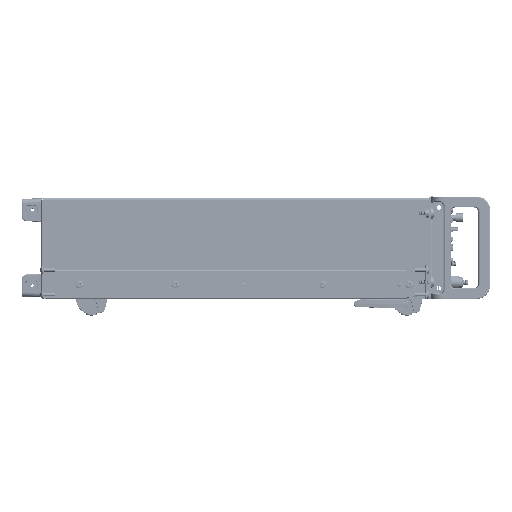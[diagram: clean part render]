
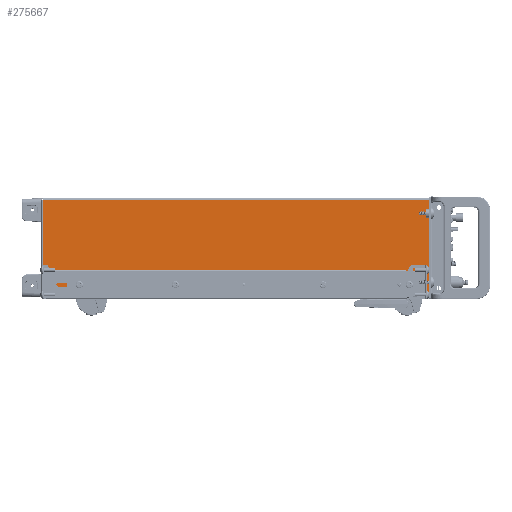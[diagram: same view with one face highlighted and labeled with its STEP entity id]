
A CAD part, left-side view. The second image highlights one B-rep face of the part: STEP entity #275667.
In plain terms, the highlighted planar face has unit normal (-1, 0, 0).
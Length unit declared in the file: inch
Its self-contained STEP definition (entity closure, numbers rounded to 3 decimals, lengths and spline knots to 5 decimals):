
#261806=DIRECTION('',(0.,0.,-1.));
#261807=VECTOR('',#261806,19.83);
#261808=CARTESIAN_POINT('',(-8.4,-2.42,17.35));
#261809=LINE('',#261808,#261807);
#262527=CARTESIAN_POINT('',(-8.4,-1.865,15.632));
#262528=DIRECTION('',(1.,0.,0.));
#262529=DIRECTION('',(0.,0.,1.));
#262530=AXIS2_PLACEMENT_3D('',#262527,#262528,#262529);
#262535=CARTESIAN_POINT('',(-8.4,-1.865,15.632));
#262536=DIRECTION('',(1.,0.,0.));
#262537=DIRECTION('',(0.,0.,-1.));
#262538=AXIS2_PLACEMENT_3D('',#262535,#262536,#262537);
#262543=CARTESIAN_POINT('',(-8.4,-1.865,7.632));
#262544=DIRECTION('',(1.,0.,0.));
#262545=DIRECTION('',(0.,0.,1.));
#262546=AXIS2_PLACEMENT_3D('',#262543,#262544,#262545);
#262551=CARTESIAN_POINT('',(-8.4,-1.865,7.632));
#262552=DIRECTION('',(1.,0.,0.));
#262553=DIRECTION('',(0.,0.,-1.));
#262554=AXIS2_PLACEMENT_3D('',#262551,#262552,#262553);
#262559=CARTESIAN_POINT('',(-8.4,-1.865,-0.368));
#262560=DIRECTION('',(1.,0.,0.));
#262561=DIRECTION('',(0.,0.,1.));
#262562=AXIS2_PLACEMENT_3D('',#262559,#262560,#262561);
#262567=CARTESIAN_POINT('',(-8.4,-1.865,-0.368));
#262568=DIRECTION('',(1.,0.,0.));
#262569=DIRECTION('',(0.,0.,-1.));
#262570=AXIS2_PLACEMENT_3D('',#262567,#262568,#262569);
#262575=CARTESIAN_POINT('',(-8.4,2.382,17.288));
#262576=DIRECTION('',(-1.,0.,0.));
#262577=DIRECTION('',(0.,-1.,0.));
#262578=AXIS2_PLACEMENT_3D('',#262575,#262576,#262577);
#262583=DIRECTION('',(0.,0.,-1.));
#262584=VECTOR('',#262583,0.051);
#262585=CARTESIAN_POINT('',(-8.4,2.32,17.288));
#262586=LINE('',#262585,#262584);
#262590=DIRECTION('',(0.,-1.,0.));
#262591=VECTOR('',#262590,0.416);
#262592=CARTESIAN_POINT('',(-8.4,2.258,17.175));
#262593=LINE('',#262592,#262591);
#262597=DIRECTION('',(0.,0.,-1.));
#262598=VECTOR('',#262597,0.051);
#262599=CARTESIAN_POINT('',(-8.4,1.78,17.288));
#262600=LINE('',#262599,#262598);
#262604=CARTESIAN_POINT('',(-8.4,1.718,17.288));
#262605=DIRECTION('',(-1.,0.,0.));
#262606=DIRECTION('',(0.,0.,1.));
#262607=AXIS2_PLACEMENT_3D('',#262604,#262605,#262606);
#262612=CARTESIAN_POINT('',(-8.4,-1.718,17.288));
#262613=DIRECTION('',(-1.,0.,0.));
#262614=DIRECTION('',(0.,-1.,0.));
#262615=AXIS2_PLACEMENT_3D('',#262612,#262613,#262614);
#262620=DIRECTION('',(0.,0.,-1.));
#262621=VECTOR('',#262620,0.051);
#262622=CARTESIAN_POINT('',(-8.4,-1.78,17.288));
#262623=LINE('',#262622,#262621);
#262627=DIRECTION('',(0.,-1.,0.));
#262628=VECTOR('',#262627,0.416);
#262629=CARTESIAN_POINT('',(-8.4,-1.842,17.175));
#262630=LINE('',#262629,#262628);
#262634=DIRECTION('',(0.,0.,-1.));
#262635=VECTOR('',#262634,0.051);
#262636=CARTESIAN_POINT('',(-8.4,-2.32,17.288));
#262637=LINE('',#262636,#262635);
#262641=CARTESIAN_POINT('',(-8.4,-2.382,17.288));
#262642=DIRECTION('',(-1.,0.,0.));
#262643=DIRECTION('',(0.,0.,1.));
#262644=AXIS2_PLACEMENT_3D('',#262641,#262642,#262643);
#262649=DIRECTION('',(0.,0.,-1.));
#262650=VECTOR('',#262649,19.83);
#262651=CARTESIAN_POINT('',(-8.4,2.42,17.35));
#262652=LINE('',#262651,#262650);
#262698=DIRECTION('',(0.,-1.,0.));
#262699=VECTOR('',#262698,0.038);
#262700=CARTESIAN_POINT('',(-8.4,2.42,17.35));
#262701=LINE('',#262700,#262699);
#262733=CARTESIAN_POINT('',(-8.4,2.258,17.237));
#262734=DIRECTION('',(1.,0.,0.));
#262735=DIRECTION('',(0.,0.,-1.));
#262736=AXIS2_PLACEMENT_3D('',#262733,#262734,#262735);
#262763=CARTESIAN_POINT('',(-8.4,1.842,17.237));
#262764=DIRECTION('',(1.,0.,0.));
#262765=DIRECTION('',(0.,-1.,0.));
#262766=AXIS2_PLACEMENT_3D('',#262763,#262764,#262765);
#262814=DIRECTION('',(0.,-1.,0.));
#262815=VECTOR('',#262814,3.436);
#262816=CARTESIAN_POINT('',(-8.4,1.718,17.35));
#262817=LINE('',#262816,#262815);
#262835=CARTESIAN_POINT('',(-8.4,-1.842,17.237));
#262836=DIRECTION('',(1.,0.,0.));
#262837=DIRECTION('',(0.,0.,-1.));
#262838=AXIS2_PLACEMENT_3D('',#262835,#262836,#262837);
#262865=CARTESIAN_POINT('',(-8.4,-2.258,17.237));
#262866=DIRECTION('',(1.,0.,0.));
#262867=DIRECTION('',(0.,-1.,0.));
#262868=AXIS2_PLACEMENT_3D('',#262865,#262866,#262867);
#262909=DIRECTION('',(0.,-1.,0.));
#262910=VECTOR('',#262909,0.038);
#262911=CARTESIAN_POINT('',(-8.4,-2.382,17.35));
#262912=LINE('',#262911,#262910);
#262916=DIRECTION('',(0.,1.,0.));
#262917=VECTOR('',#262916,4.84);
#262918=CARTESIAN_POINT('',(-8.4,-2.42,-2.48));
#262919=LINE('',#262918,#262917);
#268062=CARTESIAN_POINT('',(-8.4,2.42,17.35));
#268063=VERTEX_POINT('',#268062);
#268064=CARTESIAN_POINT('',(-8.4,-2.42,17.35));
#268066=VERTEX_POINT('',#268064);
#268069=CARTESIAN_POINT('',(-8.4,2.42,-2.48));
#268071=VERTEX_POINT('',#268069);
#268072=CARTESIAN_POINT('',(-8.4,-2.42,-2.48));
#268074=VERTEX_POINT('',#268072);
#268886=CARTESIAN_POINT('',(-8.4,2.32,17.288));
#268887=CARTESIAN_POINT('',(-8.4,2.382,17.35));
#268888=VERTEX_POINT('',#268886);
#268889=VERTEX_POINT('',#268887);
#268894=CARTESIAN_POINT('',(-8.4,1.718,17.35));
#268895=CARTESIAN_POINT('',(-8.4,1.78,17.288));
#268896=VERTEX_POINT('',#268894);
#268897=VERTEX_POINT('',#268895);
#268902=CARTESIAN_POINT('',(-8.4,-2.382,17.35));
#268903=CARTESIAN_POINT('',(-8.4,-2.32,17.288));
#268904=VERTEX_POINT('',#268902);
#268905=VERTEX_POINT('',#268903);
#268910=CARTESIAN_POINT('',(-8.4,-1.78,17.288));
#268911=CARTESIAN_POINT('',(-8.4,-1.718,17.35));
#268912=VERTEX_POINT('',#268910);
#268913=VERTEX_POINT('',#268911);
#269126=CARTESIAN_POINT('',(-8.4,-2.32,17.237));
#269128=VERTEX_POINT('',#269126);
#269130=CARTESIAN_POINT('',(-8.4,-2.258,17.175));
#269132=VERTEX_POINT('',#269130);
#269134=CARTESIAN_POINT('',(-8.4,-1.842,17.175));
#269136=VERTEX_POINT('',#269134);
#269138=CARTESIAN_POINT('',(-8.4,-1.78,17.237));
#269140=VERTEX_POINT('',#269138);
#269142=CARTESIAN_POINT('',(-8.4,1.78,17.237));
#269144=VERTEX_POINT('',#269142);
#269146=CARTESIAN_POINT('',(-8.4,1.842,17.175));
#269148=VERTEX_POINT('',#269146);
#269150=CARTESIAN_POINT('',(-8.4,2.258,17.175));
#269152=VERTEX_POINT('',#269150);
#269154=CARTESIAN_POINT('',(-8.4,2.32,17.237));
#269156=VERTEX_POINT('',#269154);
#269338=CARTESIAN_POINT('',(-8.4,-1.865,15.757));
#269339=CARTESIAN_POINT('',(-8.4,-1.865,15.507));
#269340=VERTEX_POINT('',#269338);
#269341=VERTEX_POINT('',#269339);
#269354=CARTESIAN_POINT('',(-8.4,-1.865,7.757));
#269355=CARTESIAN_POINT('',(-8.4,-1.865,7.507));
#269356=VERTEX_POINT('',#269354);
#269357=VERTEX_POINT('',#269355);
#269370=CARTESIAN_POINT('',(-8.4,-1.865,-0.243));
#269371=CARTESIAN_POINT('',(-8.4,-1.865,-0.493));
#269372=VERTEX_POINT('',#269370);
#269373=VERTEX_POINT('',#269371);
#275605=CARTESIAN_POINT('',(-8.4,2.42,17.35));
#275606=DIRECTION('',(1.,0.,0.));
#275607=DIRECTION('',(0.,-1.,0.));
#275608=AXIS2_PLACEMENT_3D('',#275605,#275606,#275607);
#275609=PLANE('',#275608);
#275611=ORIENTED_EDGE('',*,*,#275610,.F.);
#275613=ORIENTED_EDGE('',*,*,#275612,.T.);
#275615=ORIENTED_EDGE('',*,*,#275614,.F.);
#275617=ORIENTED_EDGE('',*,*,#275616,.T.);
#275619=ORIENTED_EDGE('',*,*,#275618,.F.);
#275621=ORIENTED_EDGE('',*,*,#275620,.F.);
#275623=ORIENTED_EDGE('',*,*,#275622,.F.);
#275625=ORIENTED_EDGE('',*,*,#275624,.T.);
#275627=ORIENTED_EDGE('',*,*,#275626,.F.);
#275629=ORIENTED_EDGE('',*,*,#275628,.T.);
#275631=ORIENTED_EDGE('',*,*,#275630,.F.);
#275633=ORIENTED_EDGE('',*,*,#275632,.T.);
#275635=ORIENTED_EDGE('',*,*,#275634,.F.);
#275637=ORIENTED_EDGE('',*,*,#275636,.F.);
#275639=ORIENTED_EDGE('',*,*,#275638,.F.);
#275641=ORIENTED_EDGE('',*,*,#275640,.T.);
#275642=ORIENTED_EDGE('',*,*,#274820,.T.);
#275644=ORIENTED_EDGE('',*,*,#275643,.T.);
#275645=ORIENTED_EDGE('',*,*,#270212,.F.);
#275647=ORIENTED_EDGE('',*,*,#275646,.T.);
#275648=EDGE_LOOP('',(#275611,#275613,#275615,#275617,#275619,#275621,#275623,
#275625,#275627,#275629,#275631,#275633,#275635,#275637,#275639,#275641,#275642,
#275644,#275645,#275647));
#275649=FACE_OUTER_BOUND('',#275648,.F.);
#275651=ORIENTED_EDGE('',*,*,#275650,.F.);
#275653=ORIENTED_EDGE('',*,*,#275652,.F.);
#275654=EDGE_LOOP('',(#275651,#275653));
#275655=FACE_BOUND('',#275654,.F.);
#275657=ORIENTED_EDGE('',*,*,#275656,.F.);
#275659=ORIENTED_EDGE('',*,*,#275658,.F.);
#275660=EDGE_LOOP('',(#275657,#275659));
#275661=FACE_BOUND('',#275660,.F.);
#275662=ORIENTED_EDGE('',*,*,#275588,.F.);
#275664=ORIENTED_EDGE('',*,*,#275663,.F.);
#275665=EDGE_LOOP('',(#275662,#275664));
#275666=FACE_BOUND('',#275665,.F.);
#275667=ADVANCED_FACE('',(#275649,#275655,#275661,#275666),#275609,.F.);
#262531=CIRCLE('',#262530,0.125);
#262539=CIRCLE('',#262538,0.125);
#262547=CIRCLE('',#262546,0.125);
#262555=CIRCLE('',#262554,0.125);
#262563=CIRCLE('',#262562,0.125);
#262571=CIRCLE('',#262570,0.125);
#262579=CIRCLE('',#262578,0.062);
#262608=CIRCLE('',#262607,0.062);
#262616=CIRCLE('',#262615,0.062);
#262645=CIRCLE('',#262644,0.062);
#262737=CIRCLE('',#262736,0.062);
#262767=CIRCLE('',#262766,0.062);
#262839=CIRCLE('',#262838,0.062);
#262869=CIRCLE('',#262868,0.062);
#270212=EDGE_CURVE('',#268063,#268071,#262652,.T.);
#274820=EDGE_CURVE('',#268066,#268074,#261809,.T.);
#275588=EDGE_CURVE('',#269340,#269341,#262531,.T.);
#275610=EDGE_CURVE('',#268888,#268889,#262579,.T.);
#275612=EDGE_CURVE('',#268888,#269156,#262586,.T.);
#275614=EDGE_CURVE('',#269152,#269156,#262737,.T.);
#275616=EDGE_CURVE('',#269152,#269148,#262593,.T.);
#275618=EDGE_CURVE('',#269144,#269148,#262767,.T.);
#275620=EDGE_CURVE('',#268897,#269144,#262600,.T.);
#275622=EDGE_CURVE('',#268896,#268897,#262608,.T.);
#275624=EDGE_CURVE('',#268896,#268913,#262817,.T.);
#275626=EDGE_CURVE('',#268912,#268913,#262616,.T.);
#275628=EDGE_CURVE('',#268912,#269140,#262623,.T.);
#275630=EDGE_CURVE('',#269136,#269140,#262839,.T.);
#275632=EDGE_CURVE('',#269136,#269132,#262630,.T.);
#275634=EDGE_CURVE('',#269128,#269132,#262869,.T.);
#275636=EDGE_CURVE('',#268905,#269128,#262637,.T.);
#275638=EDGE_CURVE('',#268904,#268905,#262645,.T.);
#275640=EDGE_CURVE('',#268904,#268066,#262912,.T.);
#275643=EDGE_CURVE('',#268074,#268071,#262919,.T.);
#275646=EDGE_CURVE('',#268063,#268889,#262701,.T.);
#275650=EDGE_CURVE('',#269356,#269357,#262547,.T.);
#275652=EDGE_CURVE('',#269357,#269356,#262555,.T.);
#275656=EDGE_CURVE('',#269372,#269373,#262563,.T.);
#275658=EDGE_CURVE('',#269373,#269372,#262571,.T.);
#275663=EDGE_CURVE('',#269341,#269340,#262539,.T.);
